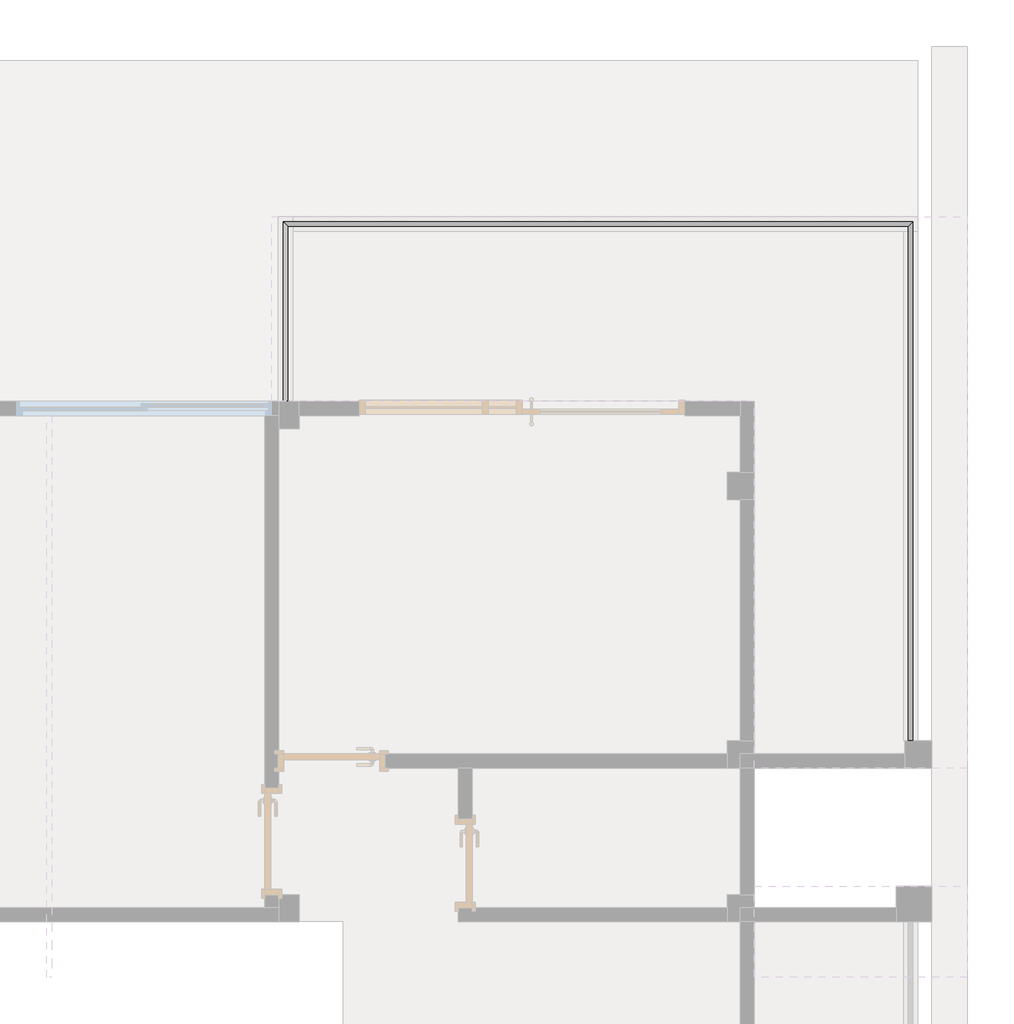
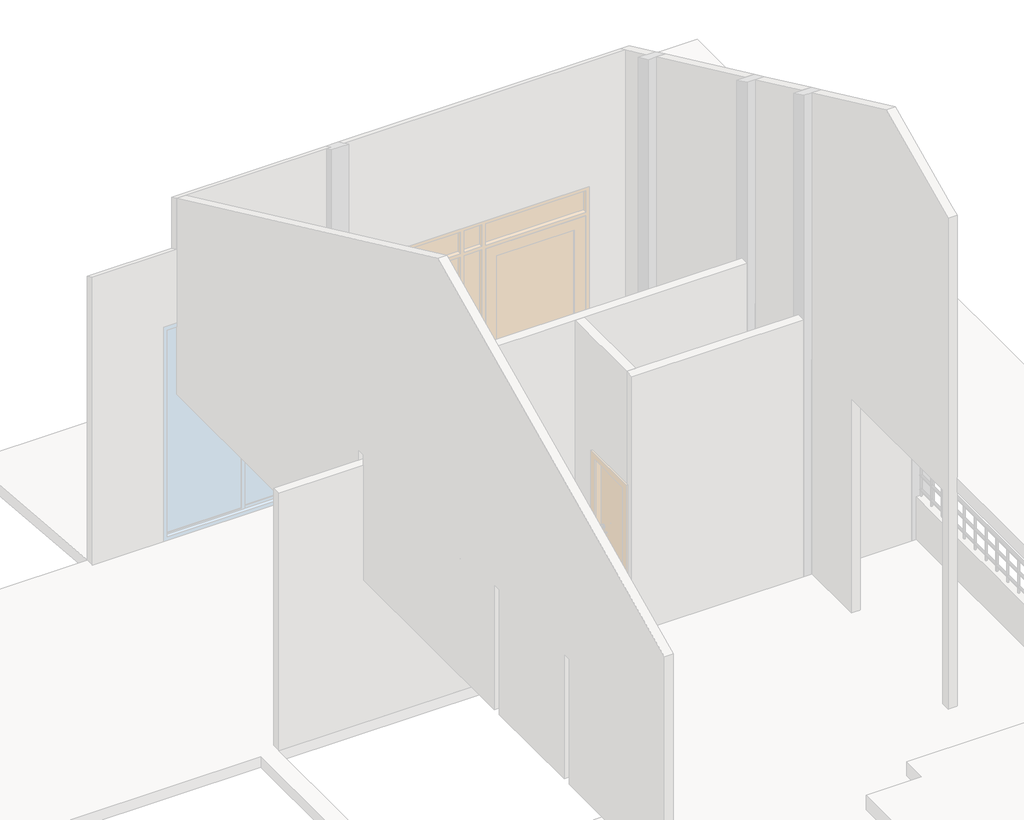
# One storey, part 6 of 6: 1 railing.
"""IFC4 building model written with IfcOpenShell, lengths in millimetres."""

import ifcopenshell
import ifcopenshell.guid

model = None  # the IFC model being written
_history = None  # IfcOwnerHistory: only IFC2X3 demands one
_inside = {}  # id of a spatial element -> (the spatial element, [elements in it])
_under = {}  # id of a project, library or spatial element -> (it, [spatial elements below it])
_declared = {}  # id of a project -> (the project, [libraries it declares])
_typed = {}  # id of a type object -> (the type object, [elements of that type])
_made_of = {}  # id of a material, layer set ... -> (it, [elements and type objects made of it])


def new_model(schema):
    """Start an empty IFC model of exactly this schema.

    Asked for "IFC4X3", IfcOpenShell would pick the latest addendum, in which some entities
    have other attributes; the version numbers below select the first issue.
    IFC2X3 requires an IfcOwnerHistory on every rooted entity: one is made here for all.
    """
    global model, _history
    if schema == "IFC4X3":
        model = ifcopenshell.file(schema_version=(4, 3, 0, 0))
    else:
        model = ifcopenshell.file(schema=schema)
    _inside.clear()
    _under.clear()
    _declared.clear()
    _typed.clear()
    _made_of.clear()
    _history = None
    if model.schema == "IFC2X3":
        org = make("IfcOrganization", Name="unknown")
        user = make(
            "IfcPersonAndOrganization",
            ThePerson=make("IfcPerson", FamilyName="unknown"),
            TheOrganization=org,
        )
        app = make(
            "IfcApplication",
            ApplicationDeveloper=org,
            Version="unknown",
            ApplicationFullName="unknown",
            ApplicationIdentifier="unknown",
        )
        _history = make(
            "IfcOwnerHistory",
            OwningUser=user,
            OwningApplication=app,
            ChangeAction="ADDED",
            CreationDate=0,
        )
    return model


def make(cls, **values):
    """One entity of the class cls with the attributes given. An attribute that is None is left unset."""
    return model.create_entity(
        cls, **{name: value for name, value in values.items() if value is not None}
    )


def rooted(cls, **values):
    """An entity with a GlobalId (a new one), such as an element, a storey or a relation."""
    return make(cls, GlobalId=ifcopenshell.guid.new(), OwnerHistory=_history, **values)


def si_unit(unit_type, name, prefix=None):
    """IfcSIUnit, for example si_unit("LENGTHUNIT", "METRE", prefix="MILLI")."""
    return make("IfcSIUnit", UnitType=unit_type, Prefix=prefix, Name=name)


def assignment(units):
    """IfcUnitAssignment: the units of a project."""
    return None if units is None else make("IfcUnitAssignment", Units=units)


def point(xyz):
    """IfcCartesianPoint."""
    return None if xyz is None else make("IfcCartesianPoint", Coordinates=xyz)


def direction(xyz):
    """IfcDirection."""
    return None if xyz is None else make("IfcDirection", DirectionRatios=xyz)


def frame(location, z_axis=None, x_axis=None):
    """IfcAxis2Placement3D, a coordinate frame: its origin and axes. An axis left out is left unset."""
    return make(
        "IfcAxis2Placement3D",
        Location=point(location),
        Axis=direction(z_axis),
        RefDirection=direction(x_axis),
    )


def frame_2d(location, x_axis=None):
    """IfcAxis2Placement2D, a coordinate frame in the plane: its origin and x axis."""
    return make(
        "IfcAxis2Placement2D", Location=point(location), RefDirection=direction(x_axis)
    )


def origin():
    """The frame at (0, 0, 0) with its axes left unset."""
    return frame((0.0, 0.0, 0.0))


def place(relative_to, where):
    """IfcLocalPlacement: puts the frame where relative to a parent placement (None: the world)."""
    return make(
        "IfcLocalPlacement", PlacementRelTo=relative_to, RelativePlacement=where
    )


def context(
    kind, dimensions, precision=None, world=None, true_north=None, identifier=None
):
    """IfcGeometricRepresentationContext, for example the 3D "Model" context."""
    return make(
        "IfcGeometricRepresentationContext",
        ContextIdentifier=identifier,
        ContextType=kind,
        CoordinateSpaceDimension=dimensions,
        Precision=precision,
        WorldCoordinateSystem=world,
        TrueNorth=true_north,
    )


def project(units=None, contexts=None):
    """IfcProject with its units and contexts."""
    return rooted(
        "IfcProject",
        Name="project",
        RepresentationContexts=contexts,
        UnitsInContext=assignment(units),
    )


def spatial(cls, under=None, at=None, **own):
    """A site, building, storey or space (cls), placed at a placement, below another one or the project."""
    s = rooted(cls, ObjectPlacement=at, **own)
    if under is not None:
        _under.setdefault(under.id(), (under, []))[1].append(s)
    return s


def circle_curve(where, radius):
    """IfcCircle in the frame where."""
    return make("IfcCircle", Position=where, Radius=radius)


def ellipse_curve(where, semi_axis1, semi_axis2):
    """IfcEllipse in the frame where."""
    return make(
        "IfcEllipse", Position=where, SemiAxis1=semi_axis1, SemiAxis2=semi_axis2
    )


def trimmed(basis, trim1, trim2, sense, master):
    """IfcTrimmedCurve: the piece of a basis curve between two trims."""
    return make(
        "IfcTrimmedCurve",
        BasisCurve=basis,
        Trim1=trim1,
        Trim2=trim2,
        SenseAgreement=sense,
        MasterRepresentation=master,
    )


def segment(curve, same_sense, transition):
    """IfcCompositeCurveSegment."""
    return make(
        "IfcCompositeCurveSegment",
        Transition=transition,
        SameSense=same_sense,
        ParentCurve=curve,
    )


def composite_curve(segments, self_intersect=None):
    """IfcCompositeCurve: segments joined end to end."""
    return make("IfcCompositeCurve", Segments=segments, SelfIntersect=self_intersect)


def outline(outer, holes=None, kind="AREA"):
    """IfcArbitraryClosedProfileDef: a profile drawn as a closed curve; with holes, ...WithVoids."""
    if holes is None:
        return make("IfcArbitraryClosedProfileDef", ProfileType=kind, OuterCurve=outer)
    return make(
        "IfcArbitraryProfileDefWithVoids",
        ProfileType=kind,
        OuterCurve=outer,
        InnerCurves=holes,
    )


def extrude(swept, where, along, depth):
    """IfcExtrudedAreaSolid: the profile swept, set in the frame where, extruded along a direction by depth."""
    return make(
        "IfcExtrudedAreaSolid",
        SweptArea=swept,
        Position=where,
        ExtrudedDirection=direction(along),
        Depth=depth,
    )


def shape(context_of_items, identifier, shape_type, items):
    """IfcShapeRepresentation: the items that make up one representation, for example the "Body"."""
    return make(
        "IfcShapeRepresentation",
        ContextOfItems=context_of_items,
        RepresentationIdentifier=identifier,
        RepresentationType=shape_type,
        Items=items,
    )


def made_of(thing, what):
    """Note that an element or type object is made of a material, layer set ...; save() writes the relation."""
    if what is not None:
        _made_of.setdefault(what.id(), (what, []))[1].append(thing)
    return thing


def element(
    cls,
    number,
    at=None,
    inside=None,
    cuts=None,
    type_object=None,
    material=None,
    context=None,
    identifier="Body",
    shape_type=None,
    held_by="IfcProductDefinitionShape",
    body=None,
    shapes=None,
    **own,
):
    """One element of the class cls, such as IfcWall. Its Tag is "e" and its number.

    at: its placement. inside: the storey or other place that contains it. cuts: it is an
    opening in that element (IfcRelVoidsElement). A single representation is given by context,
    identifier, shape_type and body (its items); several are given by shapes. held_by: the class
    of the entity that holds the representations. save() writes the other relations.
    """
    e = rooted(cls, Tag="e%d" % number, ObjectPlacement=at, **own)
    if body is not None:
        shapes = [shape(context, identifier, shape_type, body)]
    if shapes is not None:
        e.Representation = make(held_by, Representations=shapes)
    if inside is not None:
        _inside.setdefault(inside.id(), (inside, []))[1].append(e)
    if cuts is not None:
        rooted(
            "IfcRelVoidsElement", RelatingBuildingElement=cuts, RelatedOpeningElement=e
        )
    if type_object is not None:
        _typed.setdefault(type_object.id(), (type_object, []))[1].append(e)
    return made_of(e, material)


def aggregate(whole, parts):
    """IfcRelAggregates: a whole, such as a stair, and the parts it consists of."""
    return rooted("IfcRelAggregates", RelatingObject=whole, RelatedObjects=parts)


def save(model, path):
    """Write the relations noted so far, then the file.

    IfcRelAggregates (storeys below a building ...), IfcRelContainedInSpatialStructure (elements
    in a storey), IfcRelDefinesByType, IfcRelAssociatesMaterial and IfcRelDeclares: one each for
    every whole, place, type object, material and project.
    """
    for whole, parts in _under.values():
        aggregate(whole, parts)
    for where, things in _inside.values():
        rooted(
            "IfcRelContainedInSpatialStructure",
            RelatedElements=things,
            RelatingStructure=where,
        )
    for kind, things in _typed.values():
        rooted("IfcRelDefinesByType", RelatedObjects=things, RelatingType=kind)
    for what, things in _made_of.values():
        rooted("IfcRelAssociatesMaterial", RelatedObjects=things, RelatingMaterial=what)
    for by, libraries in _declared.values():
        rooted("IfcRelDeclares", RelatingContext=by, RelatedDefinitions=libraries)
    model.write(path)


def plane_surface(at):
    """IfcPlane: the flat surface through the origin of the frame at, square to its z axis."""
    return make("IfcPlane", Position=at)


def cylinder_surface(at, radius):
    """IfcCylindricalSurface: all points at the distance radius from the z axis of the frame at."""
    return make("IfcCylindricalSurface", Position=at, Radius=radius)


def advanced_brep(points, edges, surfaces, faces):
    """IfcAdvancedBrep: a solid bounded by faces that lie on surfaces and meet in shared edges.

    An edge is (start, end): straight between two places in points (the first is 0);
    or (start, end, curve); or (start, end, curve, False) where it runs against its curve.
    A face is (place in surfaces, loops), or (place, loops, False) where it looks against
    its surface's normal. A loop lists edges by number (the first is 1), with a minus sign
    where the edge is run from its end to its start. The first loop is the outer one.
    """
    corners = [point(p) for p in points]
    vertices = [make("IfcVertexPoint", VertexGeometry=c) for c in corners]
    made = []
    for start, end, *more in edges:
        made.append(
            make(
                "IfcEdgeCurve",
                EdgeStart=vertices[start],
                EdgeEnd=vertices[end],
                EdgeGeometry=more[0] if more else make("IfcPolyline", Points=[corners[start], corners[end]]),
                SameSense=more[1] if len(more) > 1 else True,
            )
        )
    hull = []
    for where, loops, *sense in faces:
        bounds = []
        for j, loop in enumerate(loops):
            ring = [make("IfcOrientedEdge", EdgeElement=made[abs(k) - 1], Orientation=k > 0) for k in loop]
            bounds.append(
                make(
                    "IfcFaceOuterBound" if j == 0 else "IfcFaceBound",
                    Bound=make("IfcEdgeLoop", EdgeList=ring),
                    Orientation=True,
                )
            )
        hull.append(make("IfcAdvancedFace", Bounds=bounds, FaceSurface=surfaces[where], SameSense=sense[0] if sense else True))
    return make("IfcAdvancedBrep", Outer=make("IfcClosedShell", CfsFaces=hull))


model = new_model("IFC4")

# Units and contexts
model_context = context("Model", 3, world=origin())
ifc_project = project(units=[si_unit("LENGTHUNIT", "METRE", prefix="MILLI")], contexts=[model_context])

# Site, building, storey
site = spatial("IfcSite", under=ifc_project)
building = spatial("IfcBuilding", under=site)
storey = spatial("IfcBuildingStorey", under=building, Name="标高 2", Elevation=3900.0)

# Railing
placement = place(None, origin())
element("IfcRailing", 1, ObjectType="500 圆管", at=placement, inside=storey, context=model_context, shape_type="SolidModel", body=[
    advanced_brep(
    [(4470.9706096, 13288.7732284, 4980.0), (4430.9706096, 13288.7732284, 4980.0), (4470.9706096, 14768.7732284, 4980.0), (4430.9706096, 14808.7732284, 4980.0), (9715.9706096, 14768.7732284, 4980.0), (9755.9706096, 14808.7732284, 4980.0), (9715.9706096, 10418.7732284, 4980.0), (9755.9706096, 10418.7732284, 4980.0)],
    [
        (0, 1, circle_curve(frame((4450.9706096, 13288.7732284, 4980.0), z_axis=(0.0, -1.0, 0.0), x_axis=(-1.0, 0.0, 0.0)), 20.0)),
        (1, 0, circle_curve(frame((4450.9706096, 13288.7732284, 4980.0), z_axis=(0.0, -1.0, 0.0), x_axis=(-1.0, 0.0, 0.0)), 20.0)),
        (0, 2),
        (2, 3, ellipse_curve(frame((4450.9706096, 14788.7732284, 4980.0), z_axis=(-0.7071067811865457, -0.7071067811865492, 0.0), x_axis=(0.7071067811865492, -0.7071067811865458, 0.0)), 28.2842712, 20.0)),
        (3, 1),
        (3, 2, ellipse_curve(frame((4450.9706096, 14788.7732284, 4980.0), z_axis=(-0.7071067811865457, -0.7071067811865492, 0.0), x_axis=(0.7071067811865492, -0.7071067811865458, 0.0)), 28.2842712, 20.0)),
        (2, 4),
        (4, 5, ellipse_curve(frame((9735.9706096, 14788.7732284, 4980.0), z_axis=(-0.7071067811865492, 0.7071067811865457, 0.0), x_axis=(-0.7071067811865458, -0.7071067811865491, 0.0)), 28.2842712, 20.0)),
        (5, 3),
        (5, 4, ellipse_curve(frame((9735.9706096, 14788.7732284, 4980.0), z_axis=(-0.7071067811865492, 0.7071067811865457, 0.0), x_axis=(-0.7071067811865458, -0.7071067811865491, 0.0)), 28.2842712, 20.0)),
        (6, 7, circle_curve(frame((9735.9706096, 10418.7732284, 4980.0), z_axis=(0.0, -1.0, 0.0), x_axis=(1.0, 0.0, 0.0)), 20.0)),
        (7, 6, circle_curve(frame((9735.9706096, 10418.7732284, 4980.0), z_axis=(0.0, -1.0, 0.0), x_axis=(1.0, 0.0, 0.0)), 20.0)),
        (4, 6),
        (7, 5),
    ],
    [
        plane_surface(frame((4450.9706096, 13288.7732284, 5000.0), z_axis=(0.0, -1.0, 0.0), x_axis=(0.0, 0.0, 1.0))),
        cylinder_surface(frame((4450.9706096, 13288.7732284, 4980.0), z_axis=(0.0, -1.0, 0.0), x_axis=(-1.0, 0.0, 0.0)), 20.0),
        cylinder_surface(frame((4450.9706096, 14788.7732284, 4980.0), z_axis=(-1.0, 0.0, 0.0), x_axis=(0.0, 1.0, 0.0)), 20.0),
        plane_surface(frame((9735.9706096, 10418.7732284, 5000.0), z_axis=(0.0, -1.0, 0.0), x_axis=(0.0, 0.0, -1.0))),
        cylinder_surface(frame((9735.9706096, 14788.7732284, 4980.0), z_axis=(0.0, 1.0, 0.0), x_axis=(1.0, 0.0, 0.0)), 20.0),
    ],
    [
        (0, [[1, 2]]),
        (1, [[-1, 3, 4, 5]]),
        (1, [[-2, -5, 6, -3]]),
        (2, [[-4, 7, 8, 9]]),
        (2, [[-6, -9, 10, -7]]),
        (3, [[11, 12]]),
        (4, [[-8, 13, -12, 14]]),
        (4, [[-10, -14, -11, -13]]),
    ],
),
    advanced_brep(
    [(4465.9706096, 13288.7732284, 4785.0), (4435.9706096, 13288.7732284, 4785.0), (4435.9706096, 14803.7732284, 4785.0), (4465.9706096, 14773.7732284, 4785.0), (9750.9706096, 14803.7732284, 4785.0), (9720.9706096, 14773.7732284, 4785.0), (9720.9706096, 10418.7732284, 4785.0), (9750.9706096, 10418.7732284, 4785.0)],
    [
        (0, 1, circle_curve(frame((4450.9706096, 13288.7732284, 4785.0), z_axis=(0.0, -1.0, 0.0), x_axis=(-1.0, 0.0, 0.0)), 15.0)),
        (1, 0, circle_curve(frame((4450.9706096, 13288.7732284, 4785.0), z_axis=(0.0, -1.0, 0.0), x_axis=(-1.0, 0.0, 0.0)), 15.0)),
        (1, 2),
        (2, 3, ellipse_curve(frame((4450.9706096, 14788.7732284, 4785.0), z_axis=(-0.7071067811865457, -0.7071067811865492, 0.0), x_axis=(0.7071067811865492, -0.7071067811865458, 0.0)), 21.2132034, 15.0)),
        (3, 0),
        (3, 2, ellipse_curve(frame((4450.9706096, 14788.7732284, 4785.0), z_axis=(-0.7071067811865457, -0.7071067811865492, 0.0), x_axis=(0.7071067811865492, -0.7071067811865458, 0.0)), 21.2132034, 15.0)),
        (2, 4),
        (4, 5, ellipse_curve(frame((9735.9706096, 14788.7732284, 4785.0), z_axis=(-0.7071067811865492, 0.7071067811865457, 0.0), x_axis=(-0.7071067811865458, -0.7071067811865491, 0.0)), 21.2132034, 15.0)),
        (5, 3),
        (5, 4, ellipse_curve(frame((9735.9706096, 14788.7732284, 4785.0), z_axis=(-0.7071067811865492, 0.7071067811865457, 0.0), x_axis=(-0.7071067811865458, -0.7071067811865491, 0.0)), 21.2132034, 15.0)),
        (6, 7, circle_curve(frame((9735.9706096, 10418.7732284, 4785.0), z_axis=(0.0, -1.0, 0.0), x_axis=(1.0, 0.0, 0.0)), 15.0)),
        (7, 6, circle_curve(frame((9735.9706096, 10418.7732284, 4785.0), z_axis=(0.0, -1.0, 0.0), x_axis=(1.0, 0.0, 0.0)), 15.0)),
        (4, 7),
        (6, 5),
    ],
    [
        plane_surface(frame((4450.9706096, 13288.7732284, 4800.0), z_axis=(0.0, -1.0, 0.0), x_axis=(0.0, 0.0, 1.0))),
        cylinder_surface(frame((4450.9706096, 13288.7732284, 4785.0), z_axis=(0.0, -1.0, 0.0), x_axis=(-1.0, 0.0, 0.0)), 15.0),
        cylinder_surface(frame((4450.9706096, 14788.7732284, 4785.0), z_axis=(-1.0, 0.0, 0.0), x_axis=(0.0, 1.0, 0.0)), 15.0),
        plane_surface(frame((9735.9706096, 10418.7732284, 4800.0), z_axis=(0.0, -1.0, 0.0), x_axis=(0.0, 0.0, -1.0))),
        cylinder_surface(frame((9735.9706096, 14788.7732284, 4785.0), z_axis=(0.0, 1.0, 0.0), x_axis=(1.0, 0.0, 0.0)), 15.0),
    ],
    [
        (0, [[1, 2]]),
        (1, [[-2, 3, 4, 5]]),
        (1, [[-1, -5, 6, -3]]),
        (2, [[-4, 7, 8, 9]]),
        (2, [[-6, -9, 10, -7]]),
        (3, [[11, 12]]),
        (4, [[-8, 13, -11, 14]]),
        (4, [[-10, -14, -12, -13]]),
    ],
),
    advanced_brep(
    [(4465.9706096, 13288.7732284, 4585.0), (4435.9706096, 13288.7732284, 4585.0), (4435.9706096, 14803.7732284, 4585.0), (4465.9706096, 14773.7732284, 4585.0), (9750.9706096, 14803.7732284, 4585.0), (9720.9706096, 14773.7732284, 4585.0), (9720.9706096, 10418.7732284, 4585.0), (9750.9706096, 10418.7732284, 4585.0)],
    [
        (0, 1, circle_curve(frame((4450.9706096, 13288.7732284, 4585.0), z_axis=(0.0, -1.0, 0.0), x_axis=(-1.0, 0.0, 0.0)), 15.0)),
        (1, 0, circle_curve(frame((4450.9706096, 13288.7732284, 4585.0), z_axis=(0.0, -1.0, 0.0), x_axis=(-1.0, 0.0, 0.0)), 15.0)),
        (1, 2),
        (2, 3, ellipse_curve(frame((4450.9706096, 14788.7732284, 4585.0), z_axis=(-0.7071067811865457, -0.7071067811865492, 0.0), x_axis=(0.7071067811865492, -0.7071067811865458, 0.0)), 21.2132034, 15.0)),
        (3, 0),
        (3, 2, ellipse_curve(frame((4450.9706096, 14788.7732284, 4585.0), z_axis=(-0.7071067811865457, -0.7071067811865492, 0.0), x_axis=(0.7071067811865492, -0.7071067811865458, 0.0)), 21.2132034, 15.0)),
        (2, 4),
        (4, 5, ellipse_curve(frame((9735.9706096, 14788.7732284, 4585.0), z_axis=(-0.7071067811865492, 0.7071067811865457, 0.0), x_axis=(-0.7071067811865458, -0.7071067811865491, 0.0)), 21.2132034, 15.0)),
        (5, 3),
        (5, 4, ellipse_curve(frame((9735.9706096, 14788.7732284, 4585.0), z_axis=(-0.7071067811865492, 0.7071067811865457, 0.0), x_axis=(-0.7071067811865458, -0.7071067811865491, 0.0)), 21.2132034, 15.0)),
        (6, 7, circle_curve(frame((9735.9706096, 10418.7732284, 4585.0), z_axis=(0.0, -1.0, 0.0), x_axis=(1.0, 0.0, 0.0)), 15.0)),
        (7, 6, circle_curve(frame((9735.9706096, 10418.7732284, 4585.0), z_axis=(0.0, -1.0, 0.0), x_axis=(1.0, 0.0, 0.0)), 15.0)),
        (4, 7),
        (6, 5),
    ],
    [
        plane_surface(frame((4450.9706096, 13288.7732284, 4600.0), z_axis=(0.0, -1.0, 0.0), x_axis=(0.0, 0.0, 1.0))),
        cylinder_surface(frame((4450.9706096, 13288.7732284, 4585.0), z_axis=(0.0, -1.0, 0.0), x_axis=(-1.0, 0.0, 0.0)), 15.0),
        cylinder_surface(frame((4450.9706096, 14788.7732284, 4585.0), z_axis=(-1.0, 0.0, 0.0), x_axis=(0.0, 1.0, 0.0)), 15.0),
        plane_surface(frame((9735.9706096, 10418.7732284, 4600.0), z_axis=(0.0, -1.0, 0.0), x_axis=(0.0, 0.0, -1.0))),
        cylinder_surface(frame((9735.9706096, 14788.7732284, 4585.0), z_axis=(0.0, 1.0, 0.0), x_axis=(1.0, 0.0, 0.0)), 15.0),
    ],
    [
        (0, [[1, 2]]),
        (1, [[-2, 3, 4, 5]]),
        (1, [[-1, -5, 6, -3]]),
        (2, [[-4, 7, 8, 9]]),
        (2, [[-6, -9, 10, -7]]),
        (3, [[11, 12]]),
        (4, [[-8, 13, -11, 14]]),
        (4, [[-10, -14, -12, -13]]),
    ],
),
    extrude(outline(composite_curve([segment(trimmed(circle_curve(frame_2d((9735.9706096, 10538.7732284)), 12.5), [point((9723.4706096, 10538.7732284))], [point((9748.4706096, 10538.7732284))], False, "CARTESIAN"), True, "CONTINUOUS"), segment(trimmed(circle_curve(frame_2d((9735.9706096, 10538.7732284)), 12.5), [point((9748.4706096, 10538.7732284))], [point((9723.4706096, 10538.7732284))], False, "CARTESIAN"), True, "CONTINUOUS")], self_intersect=False)), frame((0.0, 0.0, 4500.0), z_axis=(0.0, 0.0, 1.0), x_axis=(1.0, 0.0, 0.0)), (0.0, 0.0, 1.0), 460.0),
    extrude(outline(composite_curve([segment(trimmed(circle_curve(frame_2d((9735.9706096, 10788.7732284)), 12.5), [point((9723.4706096, 10788.7732284))], [point((9748.4706096, 10788.7732284))], False, "CARTESIAN"), True, "CONTINUOUS"), segment(trimmed(circle_curve(frame_2d((9735.9706096, 10788.7732284)), 12.5), [point((9748.4706096, 10788.7732284))], [point((9723.4706096, 10788.7732284))], False, "CARTESIAN"), True, "CONTINUOUS")], self_intersect=False)), frame((0.0, 0.0, 4500.0), z_axis=(0.0, 0.0, 1.0), x_axis=(1.0, 0.0, 0.0)), (0.0, 0.0, 1.0), 460.0),
    extrude(outline(composite_curve([segment(trimmed(circle_curve(frame_2d((9735.9706096, 11038.7732284)), 12.5), [point((9723.4706096, 11038.7732284))], [point((9748.4706096, 11038.7732284))], False, "CARTESIAN"), True, "CONTINUOUS"), segment(trimmed(circle_curve(frame_2d((9735.9706096, 11038.7732284)), 12.5), [point((9748.4706096, 11038.7732284))], [point((9723.4706096, 11038.7732284))], False, "CARTESIAN"), True, "CONTINUOUS")], self_intersect=False)), frame((0.0, 0.0, 4500.0), z_axis=(0.0, 0.0, 1.0), x_axis=(1.0, 0.0, 0.0)), (0.0, 0.0, 1.0), 460.0),
    extrude(outline(composite_curve([segment(trimmed(circle_curve(frame_2d((9735.9706096, 11288.7732284)), 12.5), [point((9723.4706096, 11288.7732284))], [point((9748.4706096, 11288.7732284))], False, "CARTESIAN"), True, "CONTINUOUS"), segment(trimmed(circle_curve(frame_2d((9735.9706096, 11288.7732284)), 12.5), [point((9748.4706096, 11288.7732284))], [point((9723.4706096, 11288.7732284))], False, "CARTESIAN"), True, "CONTINUOUS")], self_intersect=False)), frame((0.0, 0.0, 4500.0), z_axis=(0.0, 0.0, 1.0), x_axis=(1.0, 0.0, 0.0)), (0.0, 0.0, 1.0), 460.0),
    extrude(outline(composite_curve([segment(trimmed(circle_curve(frame_2d((9735.9706096, 11538.7732284)), 12.5), [point((9723.4706096, 11538.7732284))], [point((9748.4706096, 11538.7732284))], False, "CARTESIAN"), True, "CONTINUOUS"), segment(trimmed(circle_curve(frame_2d((9735.9706096, 11538.7732284)), 12.5), [point((9748.4706096, 11538.7732284))], [point((9723.4706096, 11538.7732284))], False, "CARTESIAN"), True, "CONTINUOUS")], self_intersect=False)), frame((0.0, 0.0, 4500.0), z_axis=(0.0, 0.0, 1.0), x_axis=(1.0, 0.0, 0.0)), (0.0, 0.0, 1.0), 460.0),
    extrude(outline(composite_curve([segment(trimmed(circle_curve(frame_2d((9735.9706096, 11788.7732284)), 12.5), [point((9723.4706096, 11788.7732284))], [point((9748.4706096, 11788.7732284))], False, "CARTESIAN"), True, "CONTINUOUS"), segment(trimmed(circle_curve(frame_2d((9735.9706096, 11788.7732284)), 12.5), [point((9748.4706096, 11788.7732284))], [point((9723.4706096, 11788.7732284))], False, "CARTESIAN"), True, "CONTINUOUS")], self_intersect=False)), frame((0.0, 0.0, 4500.0), z_axis=(0.0, 0.0, 1.0), x_axis=(1.0, 0.0, 0.0)), (0.0, 0.0, 1.0), 460.0),
    extrude(outline(composite_curve([segment(trimmed(circle_curve(frame_2d((9735.9706096, 12038.7732284)), 12.5), [point((9723.4706096, 12038.7732284))], [point((9748.4706096, 12038.7732284))], False, "CARTESIAN"), True, "CONTINUOUS"), segment(trimmed(circle_curve(frame_2d((9735.9706096, 12038.7732284)), 12.5), [point((9748.4706096, 12038.7732284))], [point((9723.4706096, 12038.7732284))], False, "CARTESIAN"), True, "CONTINUOUS")], self_intersect=False)), frame((0.0, 0.0, 4500.0), z_axis=(0.0, 0.0, 1.0), x_axis=(1.0, 0.0, 0.0)), (0.0, 0.0, 1.0), 460.0),
    extrude(outline(composite_curve([segment(trimmed(circle_curve(frame_2d((9735.9706096, 12288.7732284)), 12.5), [point((9723.4706096, 12288.7732284))], [point((9748.4706096, 12288.7732284))], False, "CARTESIAN"), True, "CONTINUOUS"), segment(trimmed(circle_curve(frame_2d((9735.9706096, 12288.7732284)), 12.5), [point((9748.4706096, 12288.7732284))], [point((9723.4706096, 12288.7732284))], False, "CARTESIAN"), True, "CONTINUOUS")], self_intersect=False)), frame((0.0, 0.0, 4500.0), z_axis=(0.0, 0.0, 1.0), x_axis=(1.0, 0.0, 0.0)), (0.0, 0.0, 1.0), 460.0),
    extrude(outline(composite_curve([segment(trimmed(circle_curve(frame_2d((9735.9706096, 12538.7732284)), 12.5), [point((9723.4706096, 12538.7732284))], [point((9748.4706096, 12538.7732284))], False, "CARTESIAN"), True, "CONTINUOUS"), segment(trimmed(circle_curve(frame_2d((9735.9706096, 12538.7732284)), 12.5), [point((9748.4706096, 12538.7732284))], [point((9723.4706096, 12538.7732284))], False, "CARTESIAN"), True, "CONTINUOUS")], self_intersect=False)), frame((0.0, 0.0, 4500.0), z_axis=(0.0, 0.0, 1.0), x_axis=(1.0, 0.0, 0.0)), (0.0, 0.0, 1.0), 460.0),
    extrude(outline(composite_curve([segment(trimmed(circle_curve(frame_2d((9735.9706096, 12788.7732284)), 12.5), [point((9723.4706096, 12788.7732284))], [point((9748.4706096, 12788.7732284))], False, "CARTESIAN"), True, "CONTINUOUS"), segment(trimmed(circle_curve(frame_2d((9735.9706096, 12788.7732284)), 12.5), [point((9748.4706096, 12788.7732284))], [point((9723.4706096, 12788.7732284))], False, "CARTESIAN"), True, "CONTINUOUS")], self_intersect=False)), frame((0.0, 0.0, 4500.0), z_axis=(0.0, 0.0, 1.0), x_axis=(1.0, 0.0, 0.0)), (0.0, 0.0, 1.0), 460.0),
    extrude(outline(composite_curve([segment(trimmed(circle_curve(frame_2d((9735.9706096, 13038.7732284)), 12.5), [point((9723.4706096, 13038.7732284))], [point((9748.4706096, 13038.7732284))], False, "CARTESIAN"), True, "CONTINUOUS"), segment(trimmed(circle_curve(frame_2d((9735.9706096, 13038.7732284)), 12.5), [point((9748.4706096, 13038.7732284))], [point((9723.4706096, 13038.7732284))], False, "CARTESIAN"), True, "CONTINUOUS")], self_intersect=False)), frame((0.0, 0.0, 4500.0), z_axis=(0.0, 0.0, 1.0), x_axis=(1.0, 0.0, 0.0)), (0.0, 0.0, 1.0), 460.0),
    extrude(outline(composite_curve([segment(trimmed(circle_curve(frame_2d((9735.9706096, 13288.7732284)), 12.5), [point((9723.4706096, 13288.7732284))], [point((9748.4706096, 13288.7732284))], False, "CARTESIAN"), True, "CONTINUOUS"), segment(trimmed(circle_curve(frame_2d((9735.9706096, 13288.7732284)), 12.5), [point((9748.4706096, 13288.7732284))], [point((9723.4706096, 13288.7732284))], False, "CARTESIAN"), True, "CONTINUOUS")], self_intersect=False)), frame((0.0, 0.0, 4500.0), z_axis=(0.0, 0.0, 1.0), x_axis=(1.0, 0.0, 0.0)), (0.0, 0.0, 1.0), 460.0),
    extrude(outline(composite_curve([segment(trimmed(circle_curve(frame_2d((9735.9706096, 13538.7732284)), 12.5), [point((9723.4706096, 13538.7732284))], [point((9748.4706096, 13538.7732284))], False, "CARTESIAN"), True, "CONTINUOUS"), segment(trimmed(circle_curve(frame_2d((9735.9706096, 13538.7732284)), 12.5), [point((9748.4706096, 13538.7732284))], [point((9723.4706096, 13538.7732284))], False, "CARTESIAN"), True, "CONTINUOUS")], self_intersect=False)), frame((0.0, 0.0, 4500.0), z_axis=(0.0, 0.0, 1.0), x_axis=(1.0, 0.0, 0.0)), (0.0, 0.0, 1.0), 460.0),
    extrude(outline(composite_curve([segment(trimmed(circle_curve(frame_2d((9735.9706096, 13788.7732284)), 12.5), [point((9723.4706096, 13788.7732284))], [point((9748.4706096, 13788.7732284))], False, "CARTESIAN"), True, "CONTINUOUS"), segment(trimmed(circle_curve(frame_2d((9735.9706096, 13788.7732284)), 12.5), [point((9748.4706096, 13788.7732284))], [point((9723.4706096, 13788.7732284))], False, "CARTESIAN"), True, "CONTINUOUS")], self_intersect=False)), frame((0.0, 0.0, 4500.0), z_axis=(0.0, 0.0, 1.0), x_axis=(1.0, 0.0, 0.0)), (0.0, 0.0, 1.0), 460.0),
    extrude(outline(composite_curve([segment(trimmed(circle_curve(frame_2d((9735.9706096, 14038.7732284)), 12.5), [point((9723.4706096, 14038.7732284))], [point((9748.4706096, 14038.7732284))], False, "CARTESIAN"), True, "CONTINUOUS"), segment(trimmed(circle_curve(frame_2d((9735.9706096, 14038.7732284)), 12.5), [point((9748.4706096, 14038.7732284))], [point((9723.4706096, 14038.7732284))], False, "CARTESIAN"), True, "CONTINUOUS")], self_intersect=False)), frame((0.0, 0.0, 4500.0), z_axis=(0.0, 0.0, 1.0), x_axis=(1.0, 0.0, 0.0)), (0.0, 0.0, 1.0), 460.0),
    extrude(outline(composite_curve([segment(trimmed(circle_curve(frame_2d((9735.9706096, 14288.7732284)), 12.5), [point((9723.4706096, 14288.7732284))], [point((9748.4706096, 14288.7732284))], False, "CARTESIAN"), True, "CONTINUOUS"), segment(trimmed(circle_curve(frame_2d((9735.9706096, 14288.7732284)), 12.5), [point((9748.4706096, 14288.7732284))], [point((9723.4706096, 14288.7732284))], False, "CARTESIAN"), True, "CONTINUOUS")], self_intersect=False)), frame((0.0, 0.0, 4500.0), z_axis=(0.0, 0.0, 1.0), x_axis=(1.0, 0.0, 0.0)), (0.0, 0.0, 1.0), 460.0),
    extrude(outline(composite_curve([segment(trimmed(circle_curve(frame_2d((9735.9706096, 14538.7732284)), 12.5), [point((9723.4706096, 14538.7732284))], [point((9748.4706096, 14538.7732284))], False, "CARTESIAN"), True, "CONTINUOUS"), segment(trimmed(circle_curve(frame_2d((9735.9706096, 14538.7732284)), 12.5), [point((9748.4706096, 14538.7732284))], [point((9723.4706096, 14538.7732284))], False, "CARTESIAN"), True, "CONTINUOUS")], self_intersect=False)), frame((0.0, 0.0, 4500.0), z_axis=(0.0, 0.0, 1.0), x_axis=(1.0, 0.0, 0.0)), (0.0, 0.0, 1.0), 460.0),
    extrude(outline(composite_curve([segment(trimmed(circle_curve(frame_2d((9700.9706096, 14788.7732284)), 12.5), [point((9700.9706096, 14776.2732284))], [point((9700.9706096, 14801.2732284))], False, "CARTESIAN"), True, "CONTINUOUS"), segment(trimmed(circle_curve(frame_2d((9700.9706096, 14788.7732284)), 12.5), [point((9700.9706096, 14801.2732284))], [point((9700.9706096, 14776.2732284))], False, "CARTESIAN"), True, "CONTINUOUS")], self_intersect=False)), frame((0.0, 0.0, 4500.0), z_axis=(0.0, 0.0, 1.0), x_axis=(1.0, 0.0, 0.0)), (0.0, 0.0, 1.0), 460.0),
    extrude(outline(composite_curve([segment(trimmed(circle_curve(frame_2d((9450.9706096, 14788.7732284)), 12.5), [point((9450.9706096, 14776.2732284))], [point((9450.9706096, 14801.2732284))], False, "CARTESIAN"), True, "CONTINUOUS"), segment(trimmed(circle_curve(frame_2d((9450.9706096, 14788.7732284)), 12.5), [point((9450.9706096, 14801.2732284))], [point((9450.9706096, 14776.2732284))], False, "CARTESIAN"), True, "CONTINUOUS")], self_intersect=False)), frame((0.0, 0.0, 4500.0), z_axis=(0.0, 0.0, 1.0), x_axis=(1.0, 0.0, 0.0)), (0.0, 0.0, 1.0), 460.0),
    extrude(outline(composite_curve([segment(trimmed(circle_curve(frame_2d((9200.9706096, 14788.7732284)), 12.5), [point((9200.9706096, 14776.2732284))], [point((9200.9706096, 14801.2732284))], False, "CARTESIAN"), True, "CONTINUOUS"), segment(trimmed(circle_curve(frame_2d((9200.9706096, 14788.7732284)), 12.5), [point((9200.9706096, 14801.2732284))], [point((9200.9706096, 14776.2732284))], False, "CARTESIAN"), True, "CONTINUOUS")], self_intersect=False)), frame((0.0, 0.0, 4500.0), z_axis=(0.0, 0.0, 1.0), x_axis=(1.0, 0.0, 0.0)), (0.0, 0.0, 1.0), 460.0),
    extrude(outline(composite_curve([segment(trimmed(circle_curve(frame_2d((8950.9706096, 14788.7732284)), 12.5), [point((8950.9706096, 14776.2732284))], [point((8950.9706096, 14801.2732284))], False, "CARTESIAN"), True, "CONTINUOUS"), segment(trimmed(circle_curve(frame_2d((8950.9706096, 14788.7732284)), 12.5), [point((8950.9706096, 14801.2732284))], [point((8950.9706096, 14776.2732284))], False, "CARTESIAN"), True, "CONTINUOUS")], self_intersect=False)), frame((0.0, 0.0, 4500.0), z_axis=(0.0, 0.0, 1.0), x_axis=(1.0, 0.0, 0.0)), (0.0, 0.0, 1.0), 460.0),
    extrude(outline(composite_curve([segment(trimmed(circle_curve(frame_2d((8700.9706096, 14788.7732284)), 12.5), [point((8700.9706096, 14776.2732284))], [point((8700.9706096, 14801.2732284))], False, "CARTESIAN"), True, "CONTINUOUS"), segment(trimmed(circle_curve(frame_2d((8700.9706096, 14788.7732284)), 12.5), [point((8700.9706096, 14801.2732284))], [point((8700.9706096, 14776.2732284))], False, "CARTESIAN"), True, "CONTINUOUS")], self_intersect=False)), frame((0.0, 0.0, 4500.0), z_axis=(0.0, 0.0, 1.0), x_axis=(1.0, 0.0, 0.0)), (0.0, 0.0, 1.0), 460.0),
    extrude(outline(composite_curve([segment(trimmed(circle_curve(frame_2d((8450.9706096, 14788.7732284)), 12.5), [point((8450.9706096, 14776.2732284))], [point((8450.9706096, 14801.2732284))], False, "CARTESIAN"), True, "CONTINUOUS"), segment(trimmed(circle_curve(frame_2d((8450.9706096, 14788.7732284)), 12.5), [point((8450.9706096, 14801.2732284))], [point((8450.9706096, 14776.2732284))], False, "CARTESIAN"), True, "CONTINUOUS")], self_intersect=False)), frame((0.0, 0.0, 4500.0), z_axis=(0.0, 0.0, 1.0), x_axis=(1.0, 0.0, 0.0)), (0.0, 0.0, 1.0), 460.0),
    extrude(outline(composite_curve([segment(trimmed(circle_curve(frame_2d((8200.9706096, 14788.7732284)), 12.5), [point((8200.9706096, 14776.2732284))], [point((8200.9706096, 14801.2732284))], False, "CARTESIAN"), True, "CONTINUOUS"), segment(trimmed(circle_curve(frame_2d((8200.9706096, 14788.7732284)), 12.5), [point((8200.9706096, 14801.2732284))], [point((8200.9706096, 14776.2732284))], False, "CARTESIAN"), True, "CONTINUOUS")], self_intersect=False)), frame((0.0, 0.0, 4500.0), z_axis=(0.0, 0.0, 1.0), x_axis=(1.0, 0.0, 0.0)), (0.0, 0.0, 1.0), 460.0),
    extrude(outline(composite_curve([segment(trimmed(circle_curve(frame_2d((7950.9706096, 14788.7732284)), 12.5), [point((7950.9706096, 14776.2732284))], [point((7950.9706096, 14801.2732284))], False, "CARTESIAN"), True, "CONTINUOUS"), segment(trimmed(circle_curve(frame_2d((7950.9706096, 14788.7732284)), 12.5), [point((7950.9706096, 14801.2732284))], [point((7950.9706096, 14776.2732284))], False, "CARTESIAN"), True, "CONTINUOUS")], self_intersect=False)), frame((0.0, 0.0, 4500.0), z_axis=(0.0, 0.0, 1.0), x_axis=(1.0, 0.0, 0.0)), (0.0, 0.0, 1.0), 460.0),
    extrude(outline(composite_curve([segment(trimmed(circle_curve(frame_2d((7700.9706096, 14788.7732284)), 12.5), [point((7700.9706096, 14776.2732284))], [point((7700.9706096, 14801.2732284))], False, "CARTESIAN"), True, "CONTINUOUS"), segment(trimmed(circle_curve(frame_2d((7700.9706096, 14788.7732284)), 12.5), [point((7700.9706096, 14801.2732284))], [point((7700.9706096, 14776.2732284))], False, "CARTESIAN"), True, "CONTINUOUS")], self_intersect=False)), frame((0.0, 0.0, 4500.0), z_axis=(0.0, 0.0, 1.0), x_axis=(1.0, 0.0, 0.0)), (0.0, 0.0, 1.0), 460.0),
    extrude(outline(composite_curve([segment(trimmed(circle_curve(frame_2d((7450.9706096, 14788.7732284)), 12.5), [point((7450.9706096, 14776.2732284))], [point((7450.9706096, 14801.2732284))], False, "CARTESIAN"), True, "CONTINUOUS"), segment(trimmed(circle_curve(frame_2d((7450.9706096, 14788.7732284)), 12.5), [point((7450.9706096, 14801.2732284))], [point((7450.9706096, 14776.2732284))], False, "CARTESIAN"), True, "CONTINUOUS")], self_intersect=False)), frame((0.0, 0.0, 4500.0), z_axis=(0.0, 0.0, 1.0), x_axis=(1.0, 0.0, 0.0)), (0.0, 0.0, 1.0), 460.0),
    extrude(outline(composite_curve([segment(trimmed(circle_curve(frame_2d((7200.9706096, 14788.7732284)), 12.5), [point((7200.9706096, 14776.2732284))], [point((7200.9706096, 14801.2732284))], False, "CARTESIAN"), True, "CONTINUOUS"), segment(trimmed(circle_curve(frame_2d((7200.9706096, 14788.7732284)), 12.5), [point((7200.9706096, 14801.2732284))], [point((7200.9706096, 14776.2732284))], False, "CARTESIAN"), True, "CONTINUOUS")], self_intersect=False)), frame((0.0, 0.0, 4500.0), z_axis=(0.0, 0.0, 1.0), x_axis=(1.0, 0.0, 0.0)), (0.0, 0.0, 1.0), 460.0),
    extrude(outline(composite_curve([segment(trimmed(circle_curve(frame_2d((6950.9706096, 14788.7732284)), 12.5), [point((6950.9706096, 14776.2732284))], [point((6950.9706096, 14801.2732284))], False, "CARTESIAN"), True, "CONTINUOUS"), segment(trimmed(circle_curve(frame_2d((6950.9706096, 14788.7732284)), 12.5), [point((6950.9706096, 14801.2732284))], [point((6950.9706096, 14776.2732284))], False, "CARTESIAN"), True, "CONTINUOUS")], self_intersect=False)), frame((0.0, 0.0, 4500.0), z_axis=(0.0, 0.0, 1.0), x_axis=(1.0, 0.0, 0.0)), (0.0, 0.0, 1.0), 460.0),
    extrude(outline(composite_curve([segment(trimmed(circle_curve(frame_2d((6700.9706096, 14788.7732284)), 12.5), [point((6700.9706096, 14776.2732284))], [point((6700.9706096, 14801.2732284))], False, "CARTESIAN"), True, "CONTINUOUS"), segment(trimmed(circle_curve(frame_2d((6700.9706096, 14788.7732284)), 12.5), [point((6700.9706096, 14801.2732284))], [point((6700.9706096, 14776.2732284))], False, "CARTESIAN"), True, "CONTINUOUS")], self_intersect=False)), frame((0.0, 0.0, 4500.0), z_axis=(0.0, 0.0, 1.0), x_axis=(1.0, 0.0, 0.0)), (0.0, 0.0, 1.0), 460.0),
    extrude(outline(composite_curve([segment(trimmed(circle_curve(frame_2d((6450.9706096, 14788.7732284)), 12.5), [point((6450.9706096, 14776.2732284))], [point((6450.9706096, 14801.2732284))], False, "CARTESIAN"), True, "CONTINUOUS"), segment(trimmed(circle_curve(frame_2d((6450.9706096, 14788.7732284)), 12.5), [point((6450.9706096, 14801.2732284))], [point((6450.9706096, 14776.2732284))], False, "CARTESIAN"), True, "CONTINUOUS")], self_intersect=False)), frame((0.0, 0.0, 4500.0), z_axis=(0.0, 0.0, 1.0), x_axis=(1.0, 0.0, 0.0)), (0.0, 0.0, 1.0), 460.0),
    extrude(outline(composite_curve([segment(trimmed(circle_curve(frame_2d((6200.9706096, 14788.7732284)), 12.5), [point((6200.9706096, 14776.2732284))], [point((6200.9706096, 14801.2732284))], False, "CARTESIAN"), True, "CONTINUOUS"), segment(trimmed(circle_curve(frame_2d((6200.9706096, 14788.7732284)), 12.5), [point((6200.9706096, 14801.2732284))], [point((6200.9706096, 14776.2732284))], False, "CARTESIAN"), True, "CONTINUOUS")], self_intersect=False)), frame((0.0, 0.0, 4500.0), z_axis=(0.0, 0.0, 1.0), x_axis=(1.0, 0.0, 0.0)), (0.0, 0.0, 1.0), 460.0),
    extrude(outline(composite_curve([segment(trimmed(circle_curve(frame_2d((5950.9706096, 14788.7732284)), 12.5), [point((5950.9706096, 14776.2732284))], [point((5950.9706096, 14801.2732284))], False, "CARTESIAN"), True, "CONTINUOUS"), segment(trimmed(circle_curve(frame_2d((5950.9706096, 14788.7732284)), 12.5), [point((5950.9706096, 14801.2732284))], [point((5950.9706096, 14776.2732284))], False, "CARTESIAN"), True, "CONTINUOUS")], self_intersect=False)), frame((0.0, 0.0, 4500.0), z_axis=(0.0, 0.0, 1.0), x_axis=(1.0, 0.0, 0.0)), (0.0, 0.0, 1.0), 460.0),
    extrude(outline(composite_curve([segment(trimmed(circle_curve(frame_2d((5700.9706096, 14788.7732284)), 12.5), [point((5700.9706096, 14776.2732284))], [point((5700.9706096, 14801.2732284))], False, "CARTESIAN"), True, "CONTINUOUS"), segment(trimmed(circle_curve(frame_2d((5700.9706096, 14788.7732284)), 12.5), [point((5700.9706096, 14801.2732284))], [point((5700.9706096, 14776.2732284))], False, "CARTESIAN"), True, "CONTINUOUS")], self_intersect=False)), frame((0.0, 0.0, 4500.0), z_axis=(0.0, 0.0, 1.0), x_axis=(1.0, 0.0, 0.0)), (0.0, 0.0, 1.0), 460.0),
    extrude(outline(composite_curve([segment(trimmed(circle_curve(frame_2d((5450.9706096, 14788.7732284)), 12.5), [point((5450.9706096, 14776.2732284))], [point((5450.9706096, 14801.2732284))], False, "CARTESIAN"), True, "CONTINUOUS"), segment(trimmed(circle_curve(frame_2d((5450.9706096, 14788.7732284)), 12.5), [point((5450.9706096, 14801.2732284))], [point((5450.9706096, 14776.2732284))], False, "CARTESIAN"), True, "CONTINUOUS")], self_intersect=False)), frame((0.0, 0.0, 4500.0), z_axis=(0.0, 0.0, 1.0), x_axis=(1.0, 0.0, 0.0)), (0.0, 0.0, 1.0), 460.0),
    extrude(outline(composite_curve([segment(trimmed(circle_curve(frame_2d((5200.9706096, 14788.7732284)), 12.5), [point((5200.9706096, 14776.2732284))], [point((5200.9706096, 14801.2732284))], False, "CARTESIAN"), True, "CONTINUOUS"), segment(trimmed(circle_curve(frame_2d((5200.9706096, 14788.7732284)), 12.5), [point((5200.9706096, 14801.2732284))], [point((5200.9706096, 14776.2732284))], False, "CARTESIAN"), True, "CONTINUOUS")], self_intersect=False)), frame((0.0, 0.0, 4500.0), z_axis=(0.0, 0.0, 1.0), x_axis=(1.0, 0.0, 0.0)), (0.0, 0.0, 1.0), 460.0),
    extrude(outline(composite_curve([segment(trimmed(circle_curve(frame_2d((4950.9706096, 14788.7732284)), 12.5), [point((4950.9706096, 14776.2732284))], [point((4950.9706096, 14801.2732284))], False, "CARTESIAN"), True, "CONTINUOUS"), segment(trimmed(circle_curve(frame_2d((4950.9706096, 14788.7732284)), 12.5), [point((4950.9706096, 14801.2732284))], [point((4950.9706096, 14776.2732284))], False, "CARTESIAN"), True, "CONTINUOUS")], self_intersect=False)), frame((0.0, 0.0, 4500.0), z_axis=(0.0, 0.0, 1.0), x_axis=(1.0, 0.0, 0.0)), (0.0, 0.0, 1.0), 460.0),
    extrude(outline(composite_curve([segment(trimmed(circle_curve(frame_2d((4700.9706096, 14788.7732284)), 12.5), [point((4700.9706096, 14776.2732284))], [point((4700.9706096, 14801.2732284))], False, "CARTESIAN"), True, "CONTINUOUS"), segment(trimmed(circle_curve(frame_2d((4700.9706096, 14788.7732284)), 12.5), [point((4700.9706096, 14801.2732284))], [point((4700.9706096, 14776.2732284))], False, "CARTESIAN"), True, "CONTINUOUS")], self_intersect=False)), frame((0.0, 0.0, 4500.0), z_axis=(0.0, 0.0, 1.0), x_axis=(1.0, 0.0, 0.0)), (0.0, 0.0, 1.0), 460.0),
    extrude(outline(composite_curve([segment(trimmed(circle_curve(frame_2d((4450.9706096, 14538.7732284)), 12.5), [point((4463.4706096, 14538.7732284))], [point((4438.4706096, 14538.7732284))], False, "CARTESIAN"), True, "CONTINUOUS"), segment(trimmed(circle_curve(frame_2d((4450.9706096, 14538.7732284)), 12.5), [point((4438.4706096, 14538.7732284))], [point((4463.4706096, 14538.7732284))], False, "CARTESIAN"), True, "CONTINUOUS")], self_intersect=False)), frame((0.0, 0.0, 4500.0), z_axis=(0.0, 0.0, 1.0), x_axis=(1.0, 0.0, 0.0)), (0.0, 0.0, 1.0), 460.0),
    extrude(outline(composite_curve([segment(trimmed(circle_curve(frame_2d((4450.9706096, 14288.7732284)), 12.5), [point((4463.4706096, 14288.7732284))], [point((4438.4706096, 14288.7732284))], False, "CARTESIAN"), True, "CONTINUOUS"), segment(trimmed(circle_curve(frame_2d((4450.9706096, 14288.7732284)), 12.5), [point((4438.4706096, 14288.7732284))], [point((4463.4706096, 14288.7732284))], False, "CARTESIAN"), True, "CONTINUOUS")], self_intersect=False)), frame((0.0, 0.0, 4500.0), z_axis=(0.0, 0.0, 1.0), x_axis=(1.0, 0.0, 0.0)), (0.0, 0.0, 1.0), 460.0),
    extrude(outline(composite_curve([segment(trimmed(circle_curve(frame_2d((4450.9706096, 14038.7732284)), 12.5), [point((4463.4706096, 14038.7732284))], [point((4438.4706096, 14038.7732284))], False, "CARTESIAN"), True, "CONTINUOUS"), segment(trimmed(circle_curve(frame_2d((4450.9706096, 14038.7732284)), 12.5), [point((4438.4706096, 14038.7732284))], [point((4463.4706096, 14038.7732284))], False, "CARTESIAN"), True, "CONTINUOUS")], self_intersect=False)), frame((0.0, 0.0, 4500.0), z_axis=(0.0, 0.0, 1.0), x_axis=(1.0, 0.0, 0.0)), (0.0, 0.0, 1.0), 460.0),
    extrude(outline(composite_curve([segment(trimmed(circle_curve(frame_2d((4450.9706096, 13788.7732284)), 12.5), [point((4463.4706096, 13788.7732284))], [point((4438.4706096, 13788.7732284))], False, "CARTESIAN"), True, "CONTINUOUS"), segment(trimmed(circle_curve(frame_2d((4450.9706096, 13788.7732284)), 12.5), [point((4438.4706096, 13788.7732284))], [point((4463.4706096, 13788.7732284))], False, "CARTESIAN"), True, "CONTINUOUS")], self_intersect=False)), frame((0.0, 0.0, 4500.0), z_axis=(0.0, 0.0, 1.0), x_axis=(1.0, 0.0, 0.0)), (0.0, 0.0, 1.0), 460.0),
    extrude(outline(composite_curve([segment(trimmed(circle_curve(frame_2d((4450.9706096, 13538.7732284)), 12.5), [point((4463.4706096, 13538.7732284))], [point((4438.4706096, 13538.7732284))], False, "CARTESIAN"), True, "CONTINUOUS"), segment(trimmed(circle_curve(frame_2d((4450.9706096, 13538.7732284)), 12.5), [point((4438.4706096, 13538.7732284))], [point((4463.4706096, 13538.7732284))], False, "CARTESIAN"), True, "CONTINUOUS")], self_intersect=False)), frame((0.0, 0.0, 4500.0), z_axis=(0.0, 0.0, 1.0), x_axis=(1.0, 0.0, 0.0)), (0.0, 0.0, 1.0), 460.0),
    extrude(outline(composite_curve([segment(trimmed(circle_curve(frame_2d((9735.9706096, 14788.7732284)), 12.5), [point((9735.9706096, 14776.2732284))], [point((9735.9706096, 14801.2732284))], False, "CARTESIAN"), True, "CONTINUOUS"), segment(trimmed(circle_curve(frame_2d((9735.9706096, 14788.7732284)), 12.5), [point((9735.9706096, 14801.2732284))], [point((9735.9706096, 14776.2732284))], False, "CARTESIAN"), True, "CONTINUOUS")], self_intersect=False)), frame((0.0, 0.0, 4500.0), z_axis=(0.0, 0.0, 1.0), x_axis=(1.0, 0.0, 0.0)), (0.0, 0.0, 1.0), 460.0),
    extrude(outline(composite_curve([segment(trimmed(circle_curve(frame_2d((4450.9706096, 14788.7732284)), 12.5), [point((4463.4706096, 14788.7732284))], [point((4438.4706096, 14788.7732284))], False, "CARTESIAN"), True, "CONTINUOUS"), segment(trimmed(circle_curve(frame_2d((4450.9706096, 14788.7732284)), 12.5), [point((4438.4706096, 14788.7732284))], [point((4463.4706096, 14788.7732284))], False, "CARTESIAN"), True, "CONTINUOUS")], self_intersect=False)), frame((0.0, 0.0, 4500.0), z_axis=(0.0, 0.0, 1.0), x_axis=(1.0, 0.0, 0.0)), (0.0, 0.0, 1.0), 460.0),
    extrude(outline(composite_curve([segment(trimmed(circle_curve(frame_2d((9735.9706096, 10431.2732284)), 12.5), [point((9723.4706096, 10431.2732284))], [point((9748.4706096, 10431.2732284))], False, "CARTESIAN"), True, "CONTINUOUS"), segment(trimmed(circle_curve(frame_2d((9735.9706096, 10431.2732284)), 12.5), [point((9748.4706096, 10431.2732284))], [point((9723.4706096, 10431.2732284))], False, "CARTESIAN"), True, "CONTINUOUS")], self_intersect=False)), frame((0.0, 0.0, 4500.0), z_axis=(0.0, 0.0, 1.0), x_axis=(1.0, 0.0, 0.0)), (0.0, 0.0, 1.0), 460.0),
    extrude(outline(composite_curve([segment(trimmed(circle_curve(frame_2d((4450.9706096, 13301.2732284)), 12.5), [point((4463.4706096, 13301.2732284))], [point((4438.4706096, 13301.2732284))], False, "CARTESIAN"), True, "CONTINUOUS"), segment(trimmed(circle_curve(frame_2d((4450.9706096, 13301.2732284)), 12.5), [point((4438.4706096, 13301.2732284))], [point((4463.4706096, 13301.2732284))], False, "CARTESIAN"), True, "CONTINUOUS")], self_intersect=False)), frame((0.0, 0.0, 4500.0), z_axis=(0.0, 0.0, 1.0), x_axis=(1.0, 0.0, 0.0)), (0.0, 0.0, 1.0), 460.0),
])

save(model, "model.ifc")
